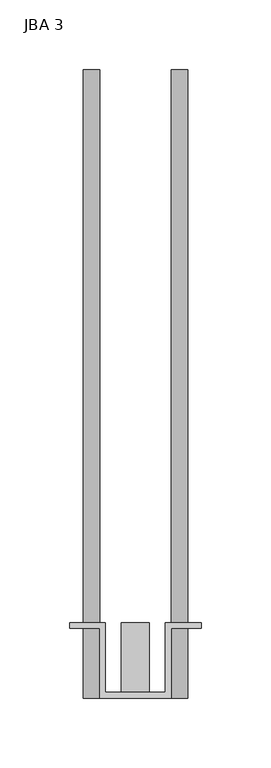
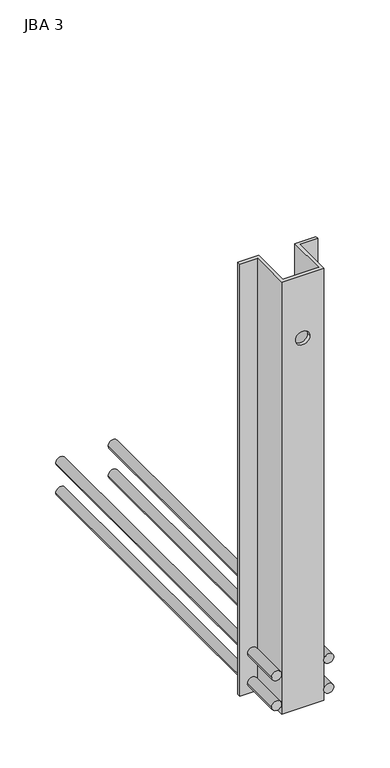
"""IFC4 building model written with IfcOpenShell, lengths in millimetres: fastener geometry, JBA JORDAHL® support corbels_1 : JBA 3."""

from ifc_helpers import new_model, si_unit, point, frame, frame_2d, origin, place, context, project, spatial, polyline, circle_curve, trimmed, segment, composite_curve, outline, extrude, source, transform, mapped, element, save
from ifc_brep_helpers import plane_surface, revolved_surface, advanced_brep


def jba_3_dd13063b(model_context):
    return source(origin(), model_context, "Body", "SolidModel", [
        extrude(outline(composite_curve([segment(trimmed(circle_curve(frame_2d((-31.0, -31.5)), 6.0), [point((-31.0, -37.5))], [point((-31.0, -25.5))], False, "CARTESIAN"), True, "CONTINUOUS"), segment(trimmed(circle_curve(frame_2d((-31.0, -31.5)), 6.0), [point((-31.0, -25.5))], [point((-31.0, -37.5))], False, "CARTESIAN"), True, "CONTINUOUS")], self_intersect=False)), frame((0.0, 0.0, 0.0), z_axis=(0.0, 1.0, 0.0), x_axis=(0.0, 0.0, 1.0)), (0.0, 0.0, 1.0), 450.0),
        extrude(outline(composite_curve([segment(trimmed(circle_curve(frame_2d((-31.0, 31.5)), 6.0), [point((-31.0, 25.5))], [point((-31.0, 37.5))], False, "CARTESIAN"), True, "CONTINUOUS"), segment(trimmed(circle_curve(frame_2d((-31.0, 31.5)), 6.0), [point((-31.0, 37.5))], [point((-31.0, 25.5))], False, "CARTESIAN"), True, "CONTINUOUS")], self_intersect=False)), frame((0.0, 0.0, 0.0), z_axis=(0.0, 1.0, 0.0), x_axis=(0.0, 0.0, 1.0)), (0.0, 0.0, 1.0), 450.0),
        extrude(outline(composite_curve([segment(trimmed(circle_curve(frame_2d((-69.0, -31.5)), 6.0), [point((-69.0, -37.5))], [point((-69.0, -25.5))], False, "CARTESIAN"), True, "CONTINUOUS"), segment(trimmed(circle_curve(frame_2d((-69.0, -31.5)), 6.0), [point((-69.0, -25.5))], [point((-69.0, -37.5))], False, "CARTESIAN"), True, "CONTINUOUS")], self_intersect=False)), frame((0.0, 0.0, 0.0), z_axis=(0.0, 1.0, 0.0), x_axis=(0.0, 0.0, 1.0)), (0.0, 0.0, 1.0), 450.0),
        extrude(outline(composite_curve([segment(trimmed(circle_curve(frame_2d((-69.0, 31.5)), 6.0), [point((-69.0, 25.5))], [point((-69.0, 37.5))], False, "CARTESIAN"), True, "CONTINUOUS"), segment(trimmed(circle_curve(frame_2d((-69.0, 31.5)), 6.0), [point((-69.0, 37.5))], [point((-69.0, 25.5))], False, "CARTESIAN"), True, "CONTINUOUS")], self_intersect=False)), frame((0.0, 0.0, 0.0), z_axis=(0.0, 1.0, 0.0), x_axis=(0.0, 0.0, 1.0)), (0.0, 0.0, 1.0), 450.0),
        advanced_brep(
        [(-47.0, 50.0, 468.0), (-25.5, 50.0, 468.0), (-25.5, 0.0, 468.0), (25.5, 0.0, 468.0), (25.5, 50.0, 468.0), (47.0, 50.0, 468.0), (47.0, 54.0, 468.0), (21.5, 54.0, 468.0), (21.5, 4.0, 468.0), (-21.5, 4.0, 468.0), (-21.5, 54.0, 468.0), (-47.0, 54.0, 468.0), (-47.0, 50.0, -82.0), (-47.0, 54.0, -82.0), (-21.5, 54.0, -82.0), (-21.5, 4.0, -82.0), (21.5, 4.0, -82.0), (21.5, 54.0, -82.0), (47.0, 54.0, -82.0), (47.0, 50.0, -82.0), (25.5, 50.0, -82.0), (25.5, 0.0, -82.0), (-25.5, 0.0, -82.0), (-25.5, 50.0, -82.0), (8.5, 0.0, 388.0), (-8.5, 0.0, 388.0), (-8.5, 4.0, 388.0), (8.5, 4.0, 388.0)],
        [
            (0, 1),
            (1, 2),
            (2, 3),
            (3, 4),
            (4, 5),
            (5, 6),
            (6, 7),
            (7, 8),
            (8, 9),
            (9, 10),
            (10, 11),
            (11, 0),
            (12, 13),
            (13, 14),
            (14, 15),
            (15, 16),
            (16, 17),
            (17, 18),
            (18, 19),
            (19, 20),
            (20, 21),
            (21, 22),
            (22, 23),
            (23, 12),
            (0, 12),
            (23, 1),
            (22, 2),
            (21, 3),
            (24, 25, circle_curve(frame((0.0, 0.0, 388.0), z_axis=(0.0, 1.0, 0.0), x_axis=(1.0, 0.0, 0.0)), 8.5)),
            (25, 24, circle_curve(frame((0.0, 0.0, 388.0), z_axis=(0.0, 1.0, 0.0), x_axis=(1.0, 0.0, 0.0)), 8.5)),
            (20, 4),
            (19, 5),
            (18, 6),
            (17, 7),
            (16, 8),
            (15, 9),
            (26, 27, circle_curve(frame((0.0, 4.0, 388.0), z_axis=(0.0, -1.0, 0.0), x_axis=(1.0, 0.0, 0.0)), 8.5)),
            (27, 26, circle_curve(frame((0.0, 4.0, 388.0), z_axis=(0.0, -1.0, 0.0), x_axis=(1.0, 0.0, 0.0)), 8.5)),
            (14, 10),
            (13, 11),
            (24, 27),
            (26, 25),
        ],
        [
            plane_surface(frame((0.0, 54.0, 468.0), z_axis=(0.0, 0.0, 1.0), x_axis=(0.0, -1.0, 0.0))),
            plane_surface(frame((0.0, 54.0, -82.0), z_axis=(0.0, 0.0, -1.0), x_axis=(0.0, -1.0, 0.0))),
            plane_surface(frame((-47.0, 50.0, 468.0), z_axis=(0.0, -1.0, 0.0), x_axis=(0.0, 0.0, -1.0))),
            plane_surface(frame((-25.5, 50.0, 468.0), z_axis=(-1.0, 0.0, 0.0), x_axis=(0.0, 0.0, -1.0))),
            plane_surface(frame((-25.5, 0.0, 468.0), z_axis=(0.0, -1.0, 0.0), x_axis=(0.0, 0.0, -1.0))),
            plane_surface(frame((25.5, 0.0, 468.0), z_axis=(1.0, 0.0, 0.0), x_axis=(0.0, 0.0, -1.0))),
            plane_surface(frame((25.5, 50.0, 468.0), z_axis=(0.0, -1.0, 0.0), x_axis=(0.0, 0.0, -1.0))),
            plane_surface(frame((47.0, 50.0, 468.0), z_axis=(1.0, 0.0, 0.0), x_axis=(0.0, 0.0, -1.0))),
            plane_surface(frame((47.0, 54.0, 468.0), z_axis=(0.0, 1.0, 0.0), x_axis=(0.0, 0.0, -1.0))),
            plane_surface(frame((21.5, 54.0, 468.0), z_axis=(-1.0, 0.0, 0.0), x_axis=(0.0, 0.0, -1.0))),
            plane_surface(frame((21.5, 4.0, 468.0), z_axis=(0.0, 1.0, 0.0), x_axis=(0.0, 0.0, -1.0))),
            plane_surface(frame((-21.5, 4.0, 468.0), z_axis=(1.0, 0.0, 0.0), x_axis=(0.0, 0.0, -1.0))),
            plane_surface(frame((-21.5, 54.0, 468.0), z_axis=(0.0, 1.0, 0.0), x_axis=(0.0, 0.0, -1.0))),
            plane_surface(frame((-47.0, 54.0, 468.0), z_axis=(-1.0, 0.0, 0.0), x_axis=(0.0, 0.0, -1.0))),
            revolved_surface(polyline([(8.5, 0.0, 388.0), (8.5, 4.0, 388.0)]), (0.0, 4.0, 388.0), (0.0, -1.0, 0.0)),
        ],
        [
            (0, [[1, 2, 3, 4, 5, 6, 7, 8, 9, 10, 11, 12]]),
            (1, [[13, 14, 15, 16, 17, 18, 19, 20, 21, 22, 23, 24]]),
            (2, [[-1, 25, -24, 26]]),
            (3, [[-2, -26, -23, 27]]),
            (4, [[-3, -27, -22, 28], [29, 30]]),
            (5, [[-4, -28, -21, 31]]),
            (6, [[-5, -31, -20, 32]]),
            (7, [[-6, -32, -19, 33]]),
            (8, [[-7, -33, -18, 34]]),
            (9, [[-8, -34, -17, 35]]),
            (10, [[-9, -35, -16, 36], [37, 38]]),
            (11, [[-10, -36, -15, 39]]),
            (12, [[-11, -39, -14, 40]]),
            (13, [[-12, -40, -13, -25]]),
            (14, [[41, -37, 42, -29]]),
            (14, [[-41, -30, -42, -38]]),
        ],
    ),
        extrude(outline(composite_curve([segment(trimmed(circle_curve(frame_2d((50.0, 0.0)), 10.0), [point((50.0, -10.0))], [point((50.0, 10.0))], False, "CARTESIAN"), True, "CONTINUOUS"), segment(trimmed(circle_curve(frame_2d((50.0, 0.0)), 10.0), [point((50.0, 10.0))], [point((50.0, -10.0))], False, "CARTESIAN"), True, "CONTINUOUS")], self_intersect=False)), frame((0.0, 4.0, 0.0), z_axis=(0.0, 1.0, 0.0), x_axis=(0.0, 0.0, 1.0)), (0.0, 0.0, 1.0), 50.0),
    ])


if __name__ == "__main__":
    model = new_model("IFC4")
    model_context = context("Model", 3, world=origin())
    ifc_project = project(units=[si_unit("LENGTHUNIT", "METRE", prefix="MILLI")], contexts=[model_context])
    site = spatial("IfcSite", under=ifc_project)
    building = spatial("IfcBuilding", under=site)
    placement = place(None, origin())
    jba_3_shape = jba_3_dd13063b(model_context)
    element("IfcFastener", 1, ObjectType="JBA JORDAHL® support corbels_1 : JBA 3", at=placement, inside=building, context=model_context, shape_type="MappedRepresentation", body=[
        mapped(jba_3_shape, transform((0.0, 0.0, 0.0), x_axis=(1.0, 0.0, 0.0), y_axis=(0.0, 1.0, 0.0), z_axis=(0.0, 0.0, 1.0))),
    ])
    save(model, "model.ifc")
